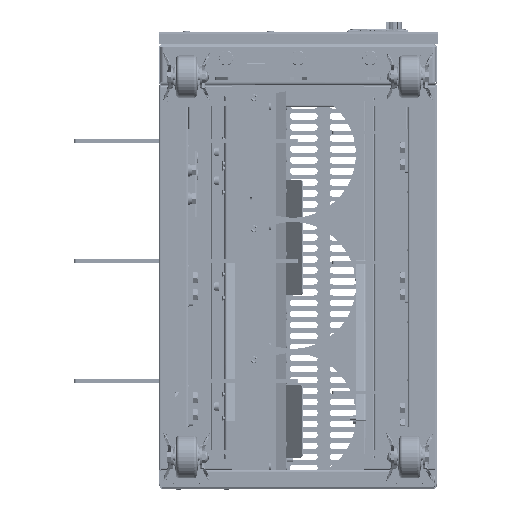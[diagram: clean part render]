
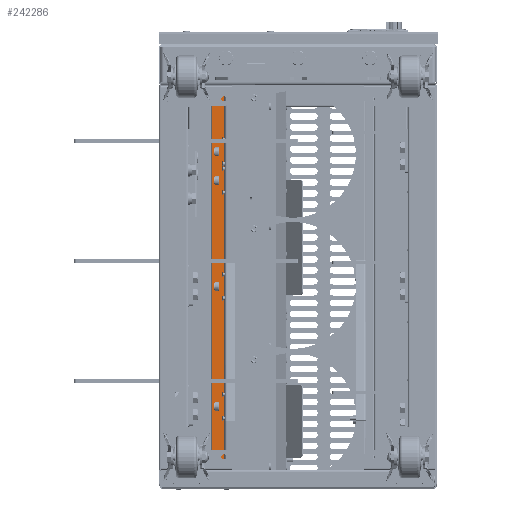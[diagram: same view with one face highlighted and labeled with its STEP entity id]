
A CAD part, front view. The second image highlights one B-rep face of the part: STEP entity #242286.
In plain terms, the highlighted planar face has unit normal (0, -1, 0) as drawn and (0, 0, 1) by its records, which use the part's own axes.
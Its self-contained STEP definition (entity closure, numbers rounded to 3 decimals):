
#242247=DIRECTION('',(0.,1.,0.));
#242248=VECTOR('',#242247,14.1);
#242249=CARTESIAN_POINT('',(-237.5,-14.3,29.25));
#242250=LINE('',#242249,#242248);
#242251=DIRECTION('',(1.,0.,0.));
#242252=VECTOR('',#242251,475.);
#242253=CARTESIAN_POINT('',(-237.5,-0.2,29.25));
#242254=LINE('',#242253,#242252);
#242255=DIRECTION('',(0.,-1.,0.));
#242256=VECTOR('',#242255,14.1);
#242257=CARTESIAN_POINT('',(237.5,-0.2,29.25));
#242258=LINE('',#242257,#242256);
#242259=DIRECTION('',(-1.,0.,0.));
#242260=VECTOR('',#242259,475.);
#242261=CARTESIAN_POINT('',(237.5,-14.3,29.25));
#242262=LINE('',#242261,#242260);
#242263=CARTESIAN_POINT('',(-237.5,-14.3,29.25));
#242264=CARTESIAN_POINT('',(-237.5,-0.2,29.25));
#242265=VERTEX_POINT('',#242263);
#242266=VERTEX_POINT('',#242264);
#242267=CARTESIAN_POINT('',(237.5,-0.2,29.25));
#242268=VERTEX_POINT('',#242267);
#242269=CARTESIAN_POINT('',(237.5,-14.3,29.25));
#242270=VERTEX_POINT('',#242269);
#242271=CARTESIAN_POINT('',(0.,-7.25,29.25));
#242272=DIRECTION('',(0.,0.,1.));
#242273=DIRECTION('',(-1.,0.,0.));
#242274=AXIS2_PLACEMENT_3D('',#242271,#242272,#242273);
#242275=PLANE('',#242274);
#242277=ORIENTED_EDGE('',*,*,#242276,.T.);
#242279=ORIENTED_EDGE('',*,*,#242278,.T.);
#242281=ORIENTED_EDGE('',*,*,#242280,.T.);
#242283=ORIENTED_EDGE('',*,*,#242282,.T.);
#242284=EDGE_LOOP('',(#242277,#242279,#242281,#242283));
#242285=FACE_OUTER_BOUND('',#242284,.F.);
#242286=ADVANCED_FACE('',(#242285),#242275,.T.);
#242276=EDGE_CURVE('',#242265,#242266,#242250,.T.);
#242278=EDGE_CURVE('',#242266,#242268,#242254,.T.);
#242280=EDGE_CURVE('',#242268,#242270,#242258,.T.);
#242282=EDGE_CURVE('',#242270,#242265,#242262,.T.);
